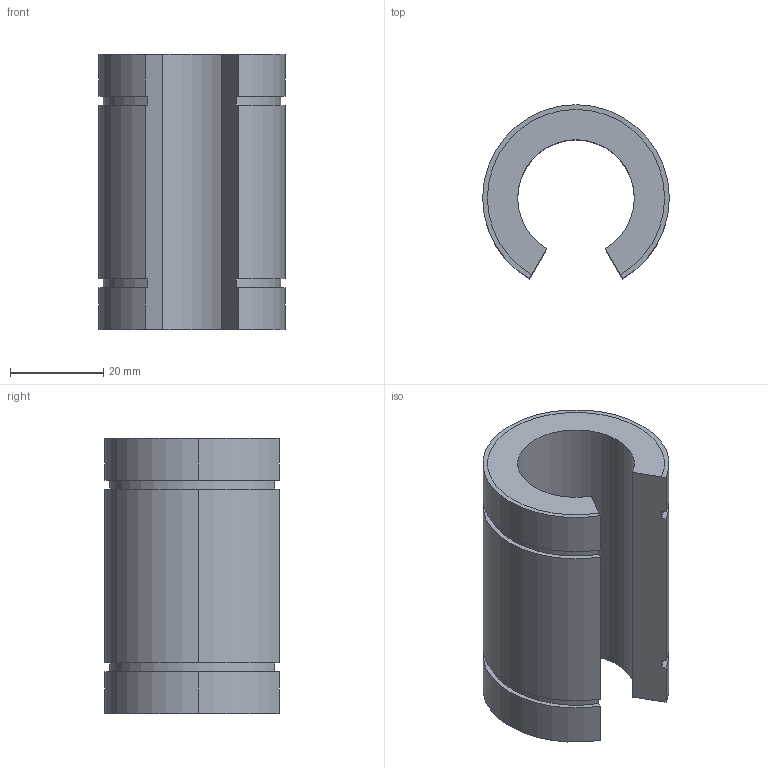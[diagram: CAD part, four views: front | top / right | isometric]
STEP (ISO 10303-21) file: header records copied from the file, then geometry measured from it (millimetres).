
FILE_DESCRIPTION((''),'2;1');
FILE_NAME('C:\Documents and Settings\ｿﾀﾀ蠑ｷ1\ｹﾙﾅﾁ ﾈｭｸ饅\ｺﾎﾇｰﾆﾄﾀﾏ\ﾁｦﾇｰ\LM__UUOP\LM25UUOP.stp','2005-06-14T16:17:00',('ｿﾀﾀ蠑ｷ1'),(''),'Autodesk Inventor 9','Autodesk Inventor 9','');
FILE_SCHEMA(('AUTOMOTIVE_DESIGN { 1 0 10303 214 1 1 1 1 }'));
Length unit declared in the file: millimetre
Products named in the file (1): LM__
Bounding box: 40 x 37.32 x 59 mm (x, y, z)
Volume: 37272.2 mm3; surface area: 12582.9 mm2
Topology: 1 solids, 1 shells, 26 faces, 72 edges, 48 vertices
Faces by surface type: cylinder 16, plane 10
Entity records: 873 total; most frequent: DIRECTION 160, CARTESIAN_POINT 147, ORIENTED_EDGE 144, EDGE_CURVE 72, AXIS2_PLACEMENT_3D 61, VERTEX_POINT 48, VECTOR 38, LINE 38
